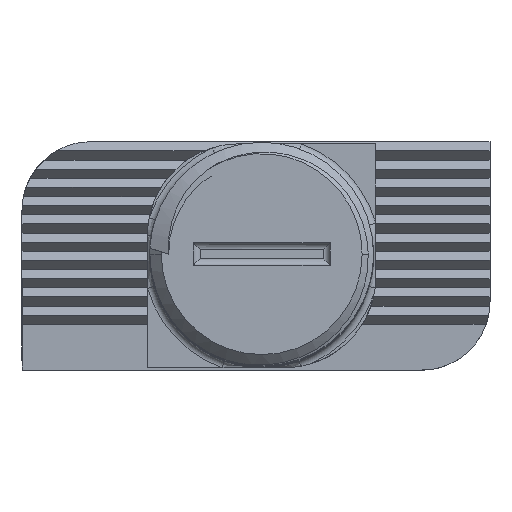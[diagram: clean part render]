
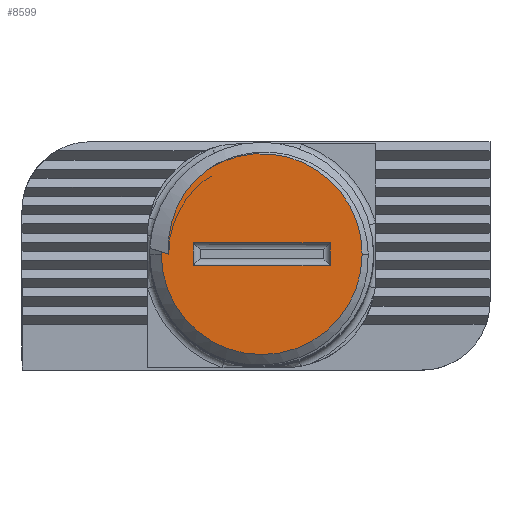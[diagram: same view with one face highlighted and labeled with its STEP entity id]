
A CAD part, top view. The second image highlights one B-rep face of the part: STEP entity #8599.
In plain terms, the highlighted planar face has unit normal (0, 0, 1).
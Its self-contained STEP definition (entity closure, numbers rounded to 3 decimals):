
#56 = CARTESIAN_POINT ( 'NONE',  ( 2., 0.147, 49.5 ) ) ;
#61 = CARTESIAN_POINT ( 'NONE',  ( -4.951, 1.052, 49.5 ) ) ;
#115 = DIRECTION ( 'NONE',  ( -0.953, 0.301, 0. ) ) ;
#192 = ORIENTED_EDGE ( 'NONE', *, *, #3158, .F. ) ;
#370 = ORIENTED_EDGE ( 'NONE', *, *, #3825, .F. ) ;
#434 = VERTEX_POINT ( 'NONE', #4677 ) ;
#457 = VECTOR ( 'NONE', #6770, 1000. ) ;
#617 = ORIENTED_EDGE ( 'NONE', *, *, #2563, .T. ) ;
#755 = FACE_OUTER_BOUND ( 'NONE', #8453, .T. ) ;
#773 = CARTESIAN_POINT ( 'NONE',  ( -4.781, 1.552, 49.5 ) ) ;
#852 = EDGE_CURVE ( 'NONE', #6421, #4431, #4568, .T. ) ;
#997 = VERTEX_POINT ( 'NONE', #56 ) ;
#1024 = VECTOR ( 'NONE', #115, 1000. ) ;
#1232 = CARTESIAN_POINT ( 'NONE',  ( -5.399, -0.252, 49.5 ) ) ;
#1258 = DIRECTION ( 'NONE',  ( 1., 0., 0. ) ) ;
#1496 = CARTESIAN_POINT ( 'NONE',  ( -4.371, 2.337, 49.5 ) ) ;
#1668 = VECTOR ( 'NONE', #3857, 1000. ) ;
#1794 = CARTESIAN_POINT ( 'NONE',  ( 2., 0.147, 49.5 ) ) ;
#2159 = CARTESIAN_POINT ( 'NONE',  ( -5.106, 0.003, 49.5 ) ) ;
#2194 = CARTESIAN_POINT ( 'NONE',  ( -3.919, 2.875, 49.5 ) ) ;
#2307 = VERTEX_POINT ( 'NONE', #6960 ) ;
#2337 = VECTOR ( 'NONE', #3178, 1000. ) ;
#2563 = EDGE_CURVE ( 'NONE', #4431, #9068, #2641, .T. ) ;
#2583 = ORIENTED_EDGE ( 'NONE', *, *, #852, .T. ) ;
#2584 = CARTESIAN_POINT ( 'NONE',  ( -1., -0.353, 49.5 ) ) ;
#2641 = CIRCLE ( 'NONE', #6371, 4.4 ) ;
#2900 = CARTESIAN_POINT ( 'NONE',  ( -3.529, 3.236, 49.5 ) ) ;
#3158 = EDGE_CURVE ( 'NONE', #3369, #7205, #3798, .T. ) ;
#3178 = DIRECTION ( 'NONE',  ( -1., 0., 0. ) ) ;
#3195 = AXIS2_PLACEMENT_3D ( 'NONE', #2584, #7580, #3299 ) ;
#3299 = DIRECTION ( 'NONE',  ( 1., 0., 0. ) ) ;
#3369 = VERTEX_POINT ( 'NONE', #4514 ) ;
#3509 = DIRECTION ( 'NONE',  ( 0., 0., 1. ) ) ;
#3721 = CARTESIAN_POINT ( 'NONE',  ( -4., -0.853, 49.5 ) ) ;
#3798 = LINE ( 'NONE', #5422, #5456 ) ;
#3825 = EDGE_CURVE ( 'NONE', #6421, #4942, #9155, .T. ) ;
#3857 = DIRECTION ( 'NONE',  ( 1., 0., 0. ) ) ;
#3923 = EDGE_LOOP ( 'NONE', ( #192, #8666, #3934, #8221 ) ) ;
#3934 = ORIENTED_EDGE ( 'NONE', *, *, #6640, .F. ) ;
#3966 = ORIENTED_EDGE ( 'NONE', *, *, #8083, .T. ) ;
#4097 = DIRECTION ( 'NONE',  ( 0., -1., 0. ) ) ;
#4167 = DIRECTION ( 'NONE',  ( 0., 0., 1. ) ) ;
#4244 = AXIS2_PLACEMENT_3D ( 'NONE', #8353, #5498, #1258 ) ;
#4296 = CARTESIAN_POINT ( 'NONE',  ( -4.994, 0.878, 49.5 ) ) ;
#4431 = VERTEX_POINT ( 'NONE', #1232 ) ;
#4437 = LINE ( 'NONE', #8177, #2337 ) ;
#4514 = CARTESIAN_POINT ( 'NONE',  ( -4., 0.147, 49.5 ) ) ;
#4568 = LINE ( 'NONE', #6521, #1024 ) ;
#4653 = CIRCLE ( 'NONE', #3195, 4.4 ) ;
#4677 = CARTESIAN_POINT ( 'NONE',  ( 2., -0.853, 49.5 ) ) ;
#4783 = PLANE ( 'NONE',  #4244 ) ;
#4861 = EDGE_CURVE ( 'NONE', #997, #3369, #4437, .T. ) ;
#4942 = VERTEX_POINT ( 'NONE', #5364 ) ;
#5023 = CARTESIAN_POINT ( 'NONE',  ( -4.845, 1.388, 49.5 ) ) ;
#5072 = CARTESIAN_POINT ( 'NONE',  ( -5.08, -0.353, 49.5 ) ) ;
#5364 = CARTESIAN_POINT ( 'NONE',  ( -3.388, 3.343, 49.5 ) ) ;
#5422 = CARTESIAN_POINT ( 'NONE',  ( -4., 0.147, 49.5 ) ) ;
#5456 = VECTOR ( 'NONE', #4097, 1000. ) ;
#5498 = DIRECTION ( 'NONE',  ( 0., 0., 1. ) ) ;
#5735 = CARTESIAN_POINT ( 'NONE',  ( -4.561, 2.031, 49.5 ) ) ;
#5904 = LINE ( 'NONE', #1794, #457 ) ;
#6371 = AXIS2_PLACEMENT_3D ( 'NONE', #8463, #4167, #9177 ) ;
#6421 = VERTEX_POINT ( 'NONE', #5072 ) ;
#6467 = CARTESIAN_POINT ( 'NONE',  ( -4.038, 2.746, 49.5 ) ) ;
#6521 = CARTESIAN_POINT ( 'NONE',  ( -1.371, -1.526, 49.5 ) ) ;
#6640 = EDGE_CURVE ( 'NONE', #434, #997, #5904, .T. ) ;
#6770 = DIRECTION ( 'NONE',  ( 0., 1., 0. ) ) ;
#6960 = CARTESIAN_POINT ( 'NONE',  ( 3.4, -0.353, 49.5 ) ) ;
#7156 = CARTESIAN_POINT ( 'NONE',  ( -5.08, -0.353, 49.5 ) ) ;
#7191 = CARTESIAN_POINT ( 'NONE',  ( -3.665, 3.12, 49.5 ) ) ;
#7205 = VERTEX_POINT ( 'NONE', #3721 ) ;
#7347 = LINE ( 'NONE', #8812, #1668 ) ;
#7503 = AXIS2_PLACEMENT_3D ( 'NONE', #7790, #3509, #8513 ) ;
#7580 = DIRECTION ( 'NONE',  ( 0., 0., 1. ) ) ;
#7790 = CARTESIAN_POINT ( 'NONE',  ( -1., -0.353, 49.5 ) ) ;
#7906 = CARTESIAN_POINT ( 'NONE',  ( -3.388, 3.343, 49.5 ) ) ;
#8083 = EDGE_CURVE ( 'NONE', #9068, #2307, #4653, .T. ) ;
#8123 = EDGE_CURVE ( 'NONE', #2307, #4942, #8232, .T. ) ;
#8140 = CARTESIAN_POINT ( 'NONE',  ( -5.4, -0.353, 49.5 ) ) ;
#8177 = CARTESIAN_POINT ( 'NONE',  ( -4., 0.147, 49.5 ) ) ;
#8221 = ORIENTED_EDGE ( 'NONE', *, *, #8360, .F. ) ;
#8232 = CIRCLE ( 'NONE', #7503, 4.4 ) ;
#8336 = FACE_BOUND ( 'NONE', #3923, .T. ) ;
#8353 = CARTESIAN_POINT ( 'NONE',  ( -1., -0.353, 49.5 ) ) ;
#8360 = EDGE_CURVE ( 'NONE', #7205, #434, #7347, .T. ) ;
#8453 = EDGE_LOOP ( 'NONE', ( #2583, #617, #3966, #8748, #370 ) ) ;
#8463 = CARTESIAN_POINT ( 'NONE',  ( -1., -0.353, 49.5 ) ) ;
#8513 = DIRECTION ( 'NONE',  ( 1., 0., 0. ) ) ;
#8591 = CARTESIAN_POINT ( 'NONE',  ( -5.088, 0.355, 49.5 ) ) ;
#8599 = ADVANCED_FACE ( 'NONE', ( #8336, #755 ), #4783, .T. ) ;
#8666 = ORIENTED_EDGE ( 'NONE', *, *, #4861, .F. ) ;
#8748 = ORIENTED_EDGE ( 'NONE', *, *, #8123, .T. ) ;
#8812 = CARTESIAN_POINT ( 'NONE',  ( -4., -0.853, 49.5 ) ) ;
#9068 = VERTEX_POINT ( 'NONE', #8140 ) ;
#9155 = B_SPLINE_CURVE_WITH_KNOTS ( 'NONE', 3,
 ( #7156, #2159, #8591, #4296, #61, #5023, #773, #5735, #1496, #6467, #2194, #7191, #2900, #7906 ),
 .UNSPECIFIED., .F., .F.,
 ( 4, 2, 2, 2, 2, 2, 4 ),
 ( 0., 0.001, 0.002, 0.002, 0.003, 0.004, 0.004 ),
 .UNSPECIFIED. ) ;
#9177 = DIRECTION ( 'NONE',  ( 1., 0., 0. ) ) ;
